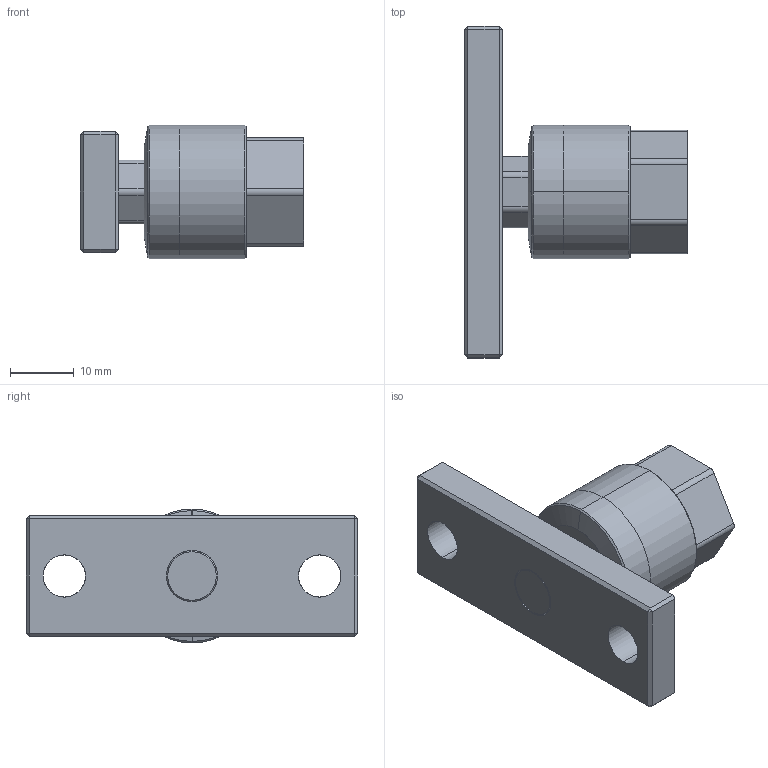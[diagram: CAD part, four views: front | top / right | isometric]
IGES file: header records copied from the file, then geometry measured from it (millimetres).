
Start section: SolidWorks IGES file using analytic representation for surfaces
Global section: file name: C:\Users\Toshiba\Desktop\FCM8-1.25-F.IGS; native system: SolidWorks 2014; preprocessor: SolidWorks 2014; author: Toshiba; date: 160414.095243; units: millimetre
Bounding box: 35 x 52 x 21 mm (x, y, z)
Surface area: 5799.1 mm2 (no closed solid volume)
Topology: 0 solids, 0 shells, 79 faces, 760 edges, 758 vertices
Faces by surface type: bspline 43, revolution 36
